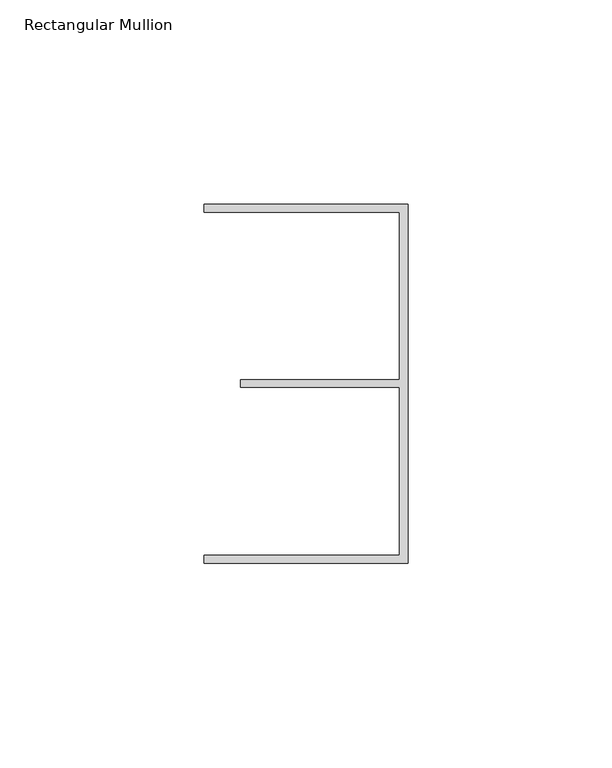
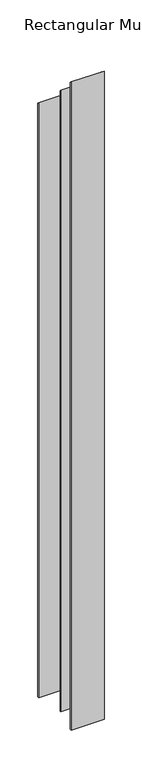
"""IFC4 building model written with IfcOpenShell, lengths in millimetres: member geometry, Rectangular Mullion : FLOOR_TRACK_CAP 94-KLS00-P80-SD41ALU."""

import ifcopenshell
import ifcopenshell.guid

model = None  # the IFC model being written
_history = None  # IfcOwnerHistory: only IFC2X3 demands one
_inside = {}  # id of a spatial element -> (the spatial element, [elements in it])
_under = {}  # id of a project, library or spatial element -> (it, [spatial elements below it])
_declared = {}  # id of a project -> (the project, [libraries it declares])
_typed = {}  # id of a type object -> (the type object, [elements of that type])
_made_of = {}  # id of a material, layer set ... -> (it, [elements and type objects made of it])


def new_model(schema):
    """Start an empty IFC model of exactly this schema.

    Asked for "IFC4X3", IfcOpenShell would pick the latest addendum, in which some entities
    have other attributes; the version numbers below select the first issue.
    IFC2X3 requires an IfcOwnerHistory on every rooted entity: one is made here for all.
    """
    global model, _history
    if schema == "IFC4X3":
        model = ifcopenshell.file(schema_version=(4, 3, 0, 0))
    else:
        model = ifcopenshell.file(schema=schema)
    _inside.clear()
    _under.clear()
    _declared.clear()
    _typed.clear()
    _made_of.clear()
    _history = None
    if model.schema == "IFC2X3":
        org = make("IfcOrganization", Name="unknown")
        user = make(
            "IfcPersonAndOrganization",
            ThePerson=make("IfcPerson", FamilyName="unknown"),
            TheOrganization=org,
        )
        app = make(
            "IfcApplication",
            ApplicationDeveloper=org,
            Version="unknown",
            ApplicationFullName="unknown",
            ApplicationIdentifier="unknown",
        )
        _history = make(
            "IfcOwnerHistory",
            OwningUser=user,
            OwningApplication=app,
            ChangeAction="ADDED",
            CreationDate=0,
        )
    return model


def make(cls, **values):
    """One entity of the class cls with the attributes given. An attribute that is None is left unset."""
    return model.create_entity(
        cls, **{name: value for name, value in values.items() if value is not None}
    )


def rooted(cls, **values):
    """An entity with a GlobalId (a new one), such as an element, a storey or a relation."""
    return make(cls, GlobalId=ifcopenshell.guid.new(), OwnerHistory=_history, **values)


def si_unit(unit_type, name, prefix=None):
    """IfcSIUnit, for example si_unit("LENGTHUNIT", "METRE", prefix="MILLI")."""
    return make("IfcSIUnit", UnitType=unit_type, Prefix=prefix, Name=name)


def assignment(units):
    """IfcUnitAssignment: the units of a project."""
    return None if units is None else make("IfcUnitAssignment", Units=units)


def point(xyz):
    """IfcCartesianPoint."""
    return None if xyz is None else make("IfcCartesianPoint", Coordinates=xyz)


def direction(xyz):
    """IfcDirection."""
    return None if xyz is None else make("IfcDirection", DirectionRatios=xyz)


def frame(location, z_axis=None, x_axis=None):
    """IfcAxis2Placement3D, a coordinate frame: its origin and axes. An axis left out is left unset."""
    return make(
        "IfcAxis2Placement3D",
        Location=point(location),
        Axis=direction(z_axis),
        RefDirection=direction(x_axis),
    )


def origin():
    """The frame at (0, 0, 0) with its axes left unset."""
    return frame((0.0, 0.0, 0.0))


def place(relative_to, where):
    """IfcLocalPlacement: puts the frame where relative to a parent placement (None: the world)."""
    return make(
        "IfcLocalPlacement", PlacementRelTo=relative_to, RelativePlacement=where
    )


def context(
    kind, dimensions, precision=None, world=None, true_north=None, identifier=None
):
    """IfcGeometricRepresentationContext, for example the 3D "Model" context."""
    return make(
        "IfcGeometricRepresentationContext",
        ContextIdentifier=identifier,
        ContextType=kind,
        CoordinateSpaceDimension=dimensions,
        Precision=precision,
        WorldCoordinateSystem=world,
        TrueNorth=true_north,
    )


def project(units=None, contexts=None):
    """IfcProject with its units and contexts."""
    return rooted(
        "IfcProject",
        Name="project",
        RepresentationContexts=contexts,
        UnitsInContext=assignment(units),
    )


def spatial(cls, under=None, at=None, **own):
    """A site, building, storey or space (cls), placed at a placement, below another one or the project."""
    s = rooted(cls, ObjectPlacement=at, **own)
    if under is not None:
        _under.setdefault(under.id(), (under, []))[1].append(s)
    return s


def faces_of(points, faces, orient=None, outer=None):
    """IfcFace entities. A face is a list of loops; a loop is a list of indices into points, from 0.

    orient and outer hold one flag for each loop. By default every Orientation is true, the
    first loop of a face is its IfcFaceOuterBound and the others are IfcFaceBound.
    """
    made = []
    for i, loops in enumerate(faces):
        bounds = []
        for j, loop in enumerate(loops):
            is_outer = j == 0 if outer is None else outer[i][j]
            bounds.append(
                make(
                    "IfcFaceOuterBound" if is_outer else "IfcFaceBound",
                    Bound=make("IfcPolyLoop", Polygon=[points[k] for k in loop]),
                    Orientation=True if orient is None else orient[i][j],
                )
            )
        made.append(make("IfcFace", Bounds=bounds))
    return made


def faceted_brep(points, faces, orient=None, outer=None, voids=None):
    """IfcFacetedBrep: a solid bounded by flat faces; with voids (closed shells), ...WithVoids."""
    shared = [point(p) for p in points]
    hull = make("IfcClosedShell", CfsFaces=faces_of(shared, faces, orient, outer))
    if voids is None:
        return make("IfcFacetedBrep", Outer=hull)
    return make(
        "IfcFacetedBrepWithVoids",
        Outer=hull,
        Voids=[
            make(cls, CfsFaces=faces_of(shared, fs, o, b)) for cls, fs, o, b in voids
        ],
    )


def shape(context_of_items, identifier, shape_type, items):
    """IfcShapeRepresentation: the items that make up one representation, for example the "Body"."""
    return make(
        "IfcShapeRepresentation",
        ContextOfItems=context_of_items,
        RepresentationIdentifier=identifier,
        RepresentationType=shape_type,
        Items=items,
    )


def source(mapping_origin, context_of_items, identifier, shape_type, items):
    """IfcRepresentationMap: a shape defined once, which mapped items show again and again."""
    return make(
        "IfcRepresentationMap",
        MappingOrigin=mapping_origin,
        MappedRepresentation=shape(context_of_items, identifier, shape_type, items),
    )


def transform(
    local_origin,
    x_axis=None,
    y_axis=None,
    z_axis=None,
    scale=None,
    scale2=None,
    scale3=None,
    uniform=True,
):
    """IfcCartesianTransformationOperator3D, or its non-uniform kind. x_axis, y_axis, z_axis: its Axis1, 2, 3."""
    if uniform:
        return make(
            "IfcCartesianTransformationOperator3D",
            Axis1=direction(x_axis),
            Axis2=direction(y_axis),
            LocalOrigin=point(local_origin),
            Scale=scale,
            Axis3=direction(z_axis),
        )
    return make(
        "IfcCartesianTransformationOperator3DnonUniform",
        Axis1=direction(x_axis),
        Axis2=direction(y_axis),
        LocalOrigin=point(local_origin),
        Scale=scale,
        Axis3=direction(z_axis),
        Scale2=scale2,
        Scale3=scale3,
    )


def mapped(mapping_source, mapping_target):
    """IfcMappedItem: shows the shape of a source again, moved by a transform."""
    return make(
        "IfcMappedItem", MappingSource=mapping_source, MappingTarget=mapping_target
    )


def made_of(thing, what):
    """Note that an element or type object is made of a material, layer set ...; save() writes the relation."""
    if what is not None:
        _made_of.setdefault(what.id(), (what, []))[1].append(thing)
    return thing


def element(
    cls,
    number,
    at=None,
    inside=None,
    cuts=None,
    type_object=None,
    material=None,
    context=None,
    identifier="Body",
    shape_type=None,
    held_by="IfcProductDefinitionShape",
    body=None,
    shapes=None,
    **own,
):
    """One element of the class cls, such as IfcWall. Its Tag is "e" and its number.

    at: its placement. inside: the storey or other place that contains it. cuts: it is an
    opening in that element (IfcRelVoidsElement). A single representation is given by context,
    identifier, shape_type and body (its items); several are given by shapes. held_by: the class
    of the entity that holds the representations. save() writes the other relations.
    """
    e = rooted(cls, Tag="e%d" % number, ObjectPlacement=at, **own)
    if body is not None:
        shapes = [shape(context, identifier, shape_type, body)]
    if shapes is not None:
        e.Representation = make(held_by, Representations=shapes)
    if inside is not None:
        _inside.setdefault(inside.id(), (inside, []))[1].append(e)
    if cuts is not None:
        rooted(
            "IfcRelVoidsElement", RelatingBuildingElement=cuts, RelatedOpeningElement=e
        )
    if type_object is not None:
        _typed.setdefault(type_object.id(), (type_object, []))[1].append(e)
    return made_of(e, material)


def aggregate(whole, parts):
    """IfcRelAggregates: a whole, such as a stair, and the parts it consists of."""
    return rooted("IfcRelAggregates", RelatingObject=whole, RelatedObjects=parts)


def save(model, path):
    """Write the relations noted so far, then the file.

    IfcRelAggregates (storeys below a building ...), IfcRelContainedInSpatialStructure (elements
    in a storey), IfcRelDefinesByType, IfcRelAssociatesMaterial and IfcRelDeclares: one each for
    every whole, place, type object, material and project.
    """
    for whole, parts in _under.values():
        aggregate(whole, parts)
    for where, things in _inside.values():
        rooted(
            "IfcRelContainedInSpatialStructure",
            RelatedElements=things,
            RelatingStructure=where,
        )
    for kind, things in _typed.values():
        rooted("IfcRelDefinesByType", RelatedObjects=things, RelatingType=kind)
    for what, things in _made_of.values():
        rooted("IfcRelAssociatesMaterial", RelatedObjects=things, RelatingMaterial=what)
    for by, libraries in _declared.values():
        rooted("IfcRelDeclares", RelatingContext=by, RelatedDefinitions=libraries)
    model.write(path)


def rectangular_mullion_87e775cd(model_context):
    return source(origin(), model_context, "Body", "Brep", [
        faceted_brep([(0.0, -44.0, -1000.0), (-50.0, -44.0, -1000.0), (-50.0, -42.0, -1000.0), (-2.0, -42.0, -1000.0), (-2.0, -0.9316478, -1000.0), (-41.0, -0.9316478, -1000.0), (-41.0, 0.9316478, -1000.0), (-2.0, 0.9316478, -1000.0), (-2.0, 42.0, -1000.0), (-50.0, 42.0, -1000.0), (-50.0, 44.0, -1000.0), (0.0, 44.0, -1000.0), (0.0, 44.0, -44.0), (0.0, -44.0, 44.0), (-50.0, 44.0, -44.0), (-50.0, 42.0, -42.0), (-2.0, 42.0, -42.0), (-2.0, 0.9316478, -0.9316478), (-41.0, 0.9316478, -0.9316478), (-41.0, -0.9316478, 0.9316478), (-2.0, -0.9316478, 0.9316478), (-2.0, -42.0, 42.0), (-50.0, -42.0, 42.0), (-50.0, -44.0, 44.0)], [[[0, 1, 2, 3, 4, 5, 6, 7, 8, 9, 10, 11]], [[12, 13, 0, 11]], [[14, 12, 11, 10]], [[15, 14, 10, 9]], [[16, 15, 9, 8]], [[17, 16, 8, 7]], [[18, 17, 7, 6]], [[19, 18, 6, 5]], [[20, 19, 5, 4]], [[21, 20, 4, 3]], [[22, 21, 3, 2]], [[23, 22, 2, 1]], [[13, 23, 1, 0]], [[13, 12, 14, 15, 16, 17, 18, 19, 20, 21, 22, 23]]]),
    ])


if __name__ == "__main__":
    model = new_model("IFC4")
    model_context = context("Model", 3, world=origin())
    ifc_project = project(units=[si_unit("LENGTHUNIT", "METRE", prefix="MILLI")], contexts=[model_context])
    site = spatial("IfcSite", under=ifc_project)
    building = spatial("IfcBuilding", under=site)
    placement = place(None, origin())
    rectangular_mullion_shape = rectangular_mullion_87e775cd(model_context)
    element("IfcMember", 1, ObjectType="Rectangular Mullion : FLOOR_TRACK_CAP 94-KLS00-P80-SD41ALU", at=placement, inside=building, context=model_context, shape_type="MappedRepresentation", body=[
        mapped(rectangular_mullion_shape, transform((0.0, 0.0, 0.0), x_axis=(1.0, 0.0, 0.0), y_axis=(0.0, 1.0, 0.0), z_axis=(0.0, 0.0, 1.0))),
    ])
    save(model, "model.ifc")
